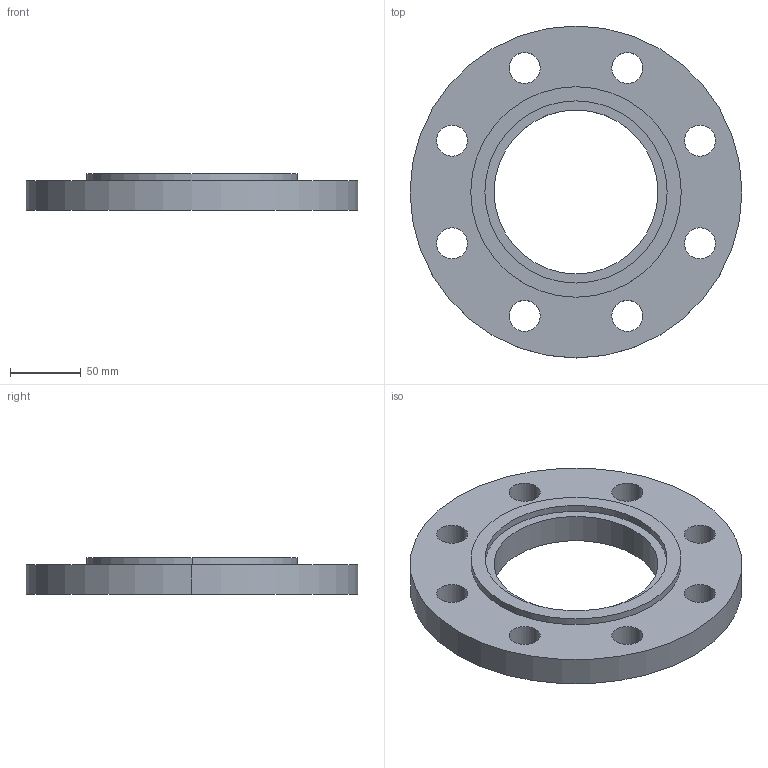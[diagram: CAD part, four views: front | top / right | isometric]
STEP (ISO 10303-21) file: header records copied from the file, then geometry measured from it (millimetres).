
FILE_DESCRIPTION (( 'STEP AP214' ), '1' );
FILE_NAME ('PN40 DN100 Type 01 - Type C Face.STEP', '2019-01-02T00:29:29', ( '' ), ( '' ), 'SwSTEP 2.0', 'SolidWorks 2019', '' );
FILE_SCHEMA (( 'AUTOMOTIVE_DESIGN' ));
Length unit declared in the file: millimetre
Products named in the file (1): PN40 DN100 Type 01 - Type C Face
Bounding box: 235 x 235 x 26 mm (x, y, z)
Volume: 646883 mm3; surface area: 98663.3 mm2
Topology: 1 solids, 1 shells, 28 faces, 72 edges, 48 vertices
Faces by surface type: cylinder 24, plane 4
Entity records: 954 total; most frequent: DIRECTION 178, CARTESIAN_POINT 149, ORIENTED_EDGE 144, AXIS2_PLACEMENT_3D 77, EDGE_CURVE 72, CIRCLE 48, EDGE_LOOP 48, VERTEX_POINT 48
